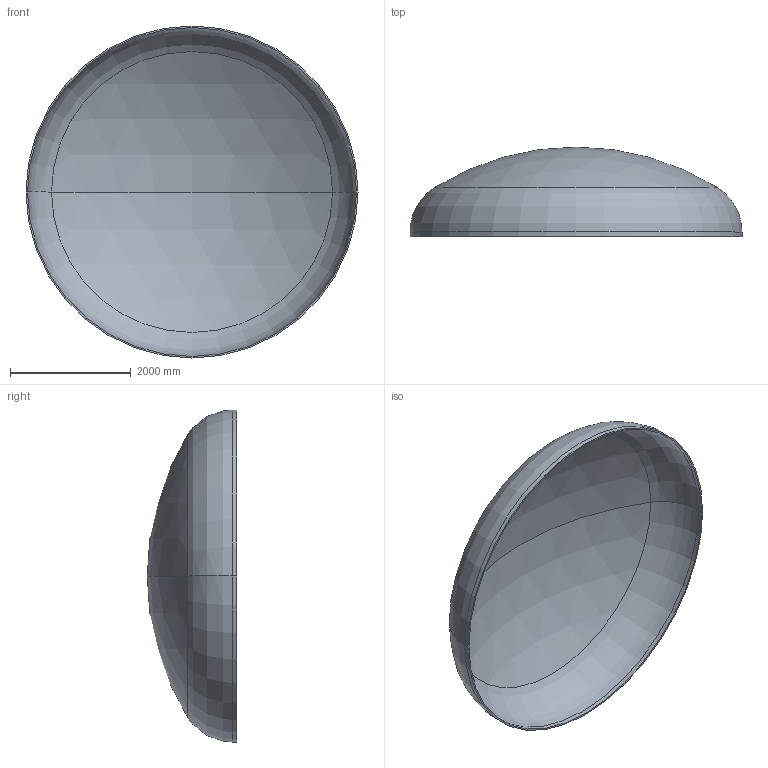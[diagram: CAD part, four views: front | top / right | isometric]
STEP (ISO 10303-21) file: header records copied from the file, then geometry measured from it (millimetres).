
FILE_DESCRIPTION (( 'STEP AP203' ), '1' );
FILE_NAME ('DIN 28013 Korbbogenform_-_Boden DIN 28013 - 5500 x 75 - I - s=25.step', '2016-07-04T10:33:47', ( '' ), ( '' ), 'SwSTEP 2.0', 'SolidWorks 2013', '' );
FILE_SCHEMA (( 'CONFIG_CONTROL_DESIGN' ));
Length unit declared in the file: millimetre
Products named in the file (1): DIN 28013 Korbbogenform_-_Boden DIN 28013 - 5500 x 75 - I - s=25
Bounding box: 5500 x 1482.78 x 5500 mm (x, y, z)
Volume: 849602934.7 mm3; surface area: 68399522.1 mm2
Topology: 1 solids, 1 shells, 13 faces, 24 edges, 14 vertices
Faces by surface type: torus 4, cylinder 4, sphere 4, plane 1
Entity records: 407 total; most frequent: DIRECTION 72, CARTESIAN_POINT 52, ORIENTED_EDGE 48, AXIS2_PLACEMENT_3D 34, EDGE_CURVE 24, CIRCLE 20, EDGE_LOOP 14, VERTEX_POINT 14
